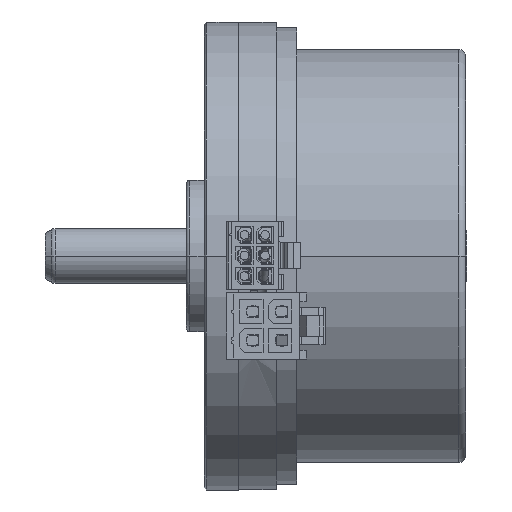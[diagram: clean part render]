
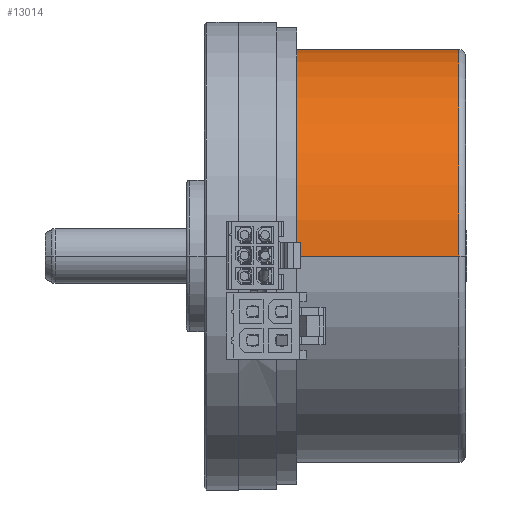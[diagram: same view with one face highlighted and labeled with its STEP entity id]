
A CAD part, front view. The second image highlights one B-rep face of the part: STEP entity #13014.
In plain terms, the highlighted cylindrical face has radius 30 mm (diameter 60 mm), a partial arc.
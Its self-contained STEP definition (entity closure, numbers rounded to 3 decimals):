
#4661=DIRECTION('',(1.,0.,0.));
#4662=VECTOR('',#4661,25.5);
#4663=CARTESIAN_POINT('',(11.5,-30.,0.));
#4664=LINE('',#4663,#4662);
#4668=CARTESIAN_POINT('',(11.5,0.,0.));
#4669=DIRECTION('',(-1.,0.,0.));
#4670=DIRECTION('',(0.,-1.,0.));
#4671=AXIS2_PLACEMENT_3D('',#4668,#4669,#4670);
#4676=DIRECTION('',(1.,0.,0.));
#4677=VECTOR('',#4676,25.5);
#4678=CARTESIAN_POINT('',(11.5,30.,0.));
#4679=LINE('',#4678,#4677);
#4707=CARTESIAN_POINT('',(37.,0.,0.));
#4708=DIRECTION('',(-1.,0.,0.));
#4709=DIRECTION('',(0.,-1.,0.));
#4710=AXIS2_PLACEMENT_3D('',#4707,#4708,#4709);
#8367=CARTESIAN_POINT('',(11.5,-30.,0.));
#8368=CARTESIAN_POINT('',(37.,-30.,0.));
#8369=VERTEX_POINT('',#8367);
#8370=VERTEX_POINT('',#8368);
#8377=CARTESIAN_POINT('',(11.5,30.,0.));
#8378=CARTESIAN_POINT('',(37.,30.,0.));
#8379=VERTEX_POINT('',#8377);
#8380=VERTEX_POINT('',#8378);
#13000=CARTESIAN_POINT('',(-26.165,0.,0.));
#13001=DIRECTION('',(1.,0.,0.));
#13002=DIRECTION('',(0.,-1.,0.));
#13003=AXIS2_PLACEMENT_3D('',#13000,#13001,#13002);
#13004=CYLINDRICAL_SURFACE('',#13003,30.);
#13006=ORIENTED_EDGE('',*,*,#13005,.F.);
#13007=ORIENTED_EDGE('',*,*,#12982,.T.);
#13009=ORIENTED_EDGE('',*,*,#13008,.T.);
#13011=ORIENTED_EDGE('',*,*,#13010,.F.);
#13012=EDGE_LOOP('',(#13006,#13007,#13009,#13011));
#13013=FACE_OUTER_BOUND('',#13012,.F.);
#13014=ADVANCED_FACE('',(#13013),#13004,.T.);
#4672=CIRCLE('',#4671,30.);
#4711=CIRCLE('',#4710,30.);
#12982=EDGE_CURVE('',#8369,#8379,#4672,.T.);
#13005=EDGE_CURVE('',#8369,#8370,#4664,.T.);
#13008=EDGE_CURVE('',#8379,#8380,#4679,.T.);
#13010=EDGE_CURVE('',#8370,#8380,#4711,.T.);
